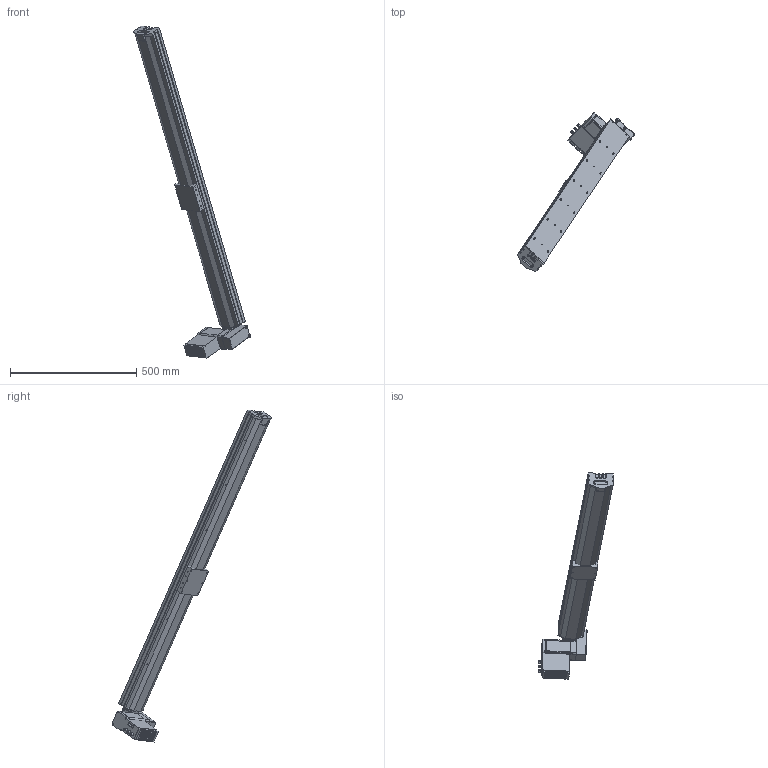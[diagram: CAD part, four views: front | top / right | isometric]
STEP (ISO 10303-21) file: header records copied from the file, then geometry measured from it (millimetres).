
FILE_DESCRIPTION (( 'STEP AP203' ), '1' );
FILE_NAME ('S10 CBH RT S1300.STEP', '2012-10-01T11:47:50', ( '' ), ( '' ), 'SwSTEP 2.0', 'SolidWorks 2010', '' );
FILE_SCHEMA (( 'CONFIG_CONTROL_DESIGN' ));
Length unit declared in the file: millimetre
Products named in the file (9): axe 1300; Plaque racord_; moteur M3; S10 CBH RT S1300; plaque de bout; palette tbh; embout; moteur M3_1; MOTEUR GMI 61 
Assembly tree (7 placements, depth 3):
  moteur M3
  S10 CBH RT S1300
    palette tbh
    plaque de bout
      Plaque racord_
      moteur M3_1
    MOTEUR GMI 61 
    embout
    axe 1300
Bounding box: 464 x 632.29 x 1314.23 mm (x, y, z)
Volume: 7763752.9 mm3; surface area: 800213.9 mm2
Topology: 5 solids, 18 shells, 754 faces, 1958 edges, 1230 vertices
Faces by surface type: plane 380, cylinder 267, cone 72, torus 23, bspline 8, sphere 4
Entity records: 26157 total; most frequent: CARTESIAN_POINT 6746, DIRECTION 3925, ORIENTED_EDGE 3672, EDGE_CURVE 1886, AXIS2_PLACEMENT_3D 1349, VERTEX_POINT 1230, VECTOR 1227, LINE 1227
